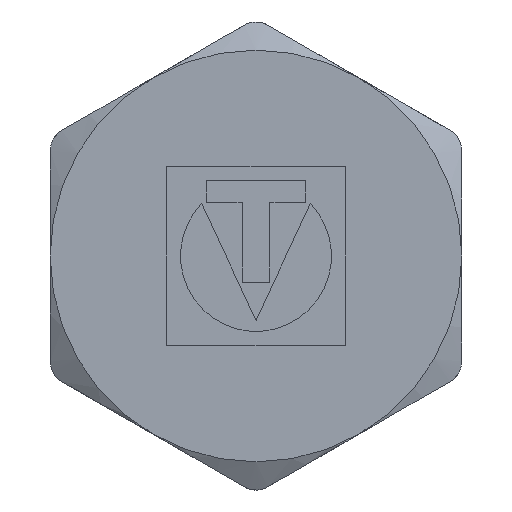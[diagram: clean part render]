
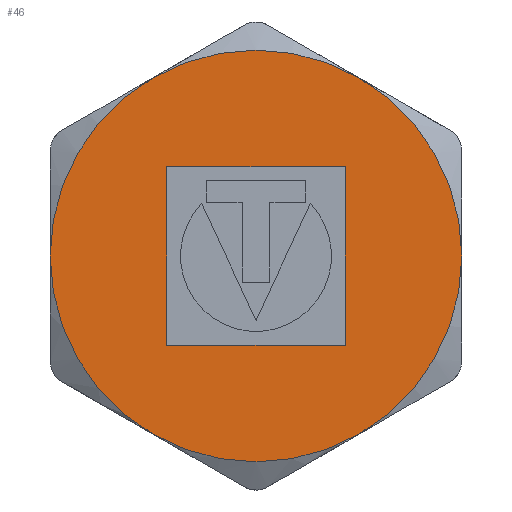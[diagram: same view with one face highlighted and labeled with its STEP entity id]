
A CAD part, front view. The second image highlights one B-rep face of the part: STEP entity #46.
In plain terms, the highlighted planar face has unit normal (0, -1, 0).
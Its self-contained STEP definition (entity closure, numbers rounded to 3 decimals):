
#46=ADVANCED_FACE('',(#100,#102),#104,.F.);
#100=FACE_BOUND('',#101,.T.);
#101=EDGE_LOOP('',(#403,#404));
#102=FACE_BOUND('',#103,.T.);
#103=EDGE_LOOP('',(#405,#406,#407,#408));
#104=PLANE('',#105);
#105=AXIS2_PLACEMENT_3D('',#106,#107,#108);
#106=CARTESIAN_POINT('',(0.,0.,0.));
#107=DIRECTION('',(0.,1.,0.));
#108=DIRECTION('',(-1.,0.,0.));
#403=ORIENTED_EDGE('',*,*,#599,.T.);
#404=ORIENTED_EDGE('',*,*,#600,.T.);
#405=ORIENTED_EDGE('',*,*,#601,.F.);
#406=ORIENTED_EDGE('',*,*,#602,.F.);
#407=ORIENTED_EDGE('',*,*,#603,.F.);
#408=ORIENTED_EDGE('',*,*,#604,.F.);
#599=EDGE_CURVE('',#708,#709,#710,.F.);
#600=EDGE_CURVE('',#709,#708,#711,.F.);
#601=EDGE_CURVE('',#712,#713,#714,.F.);
#602=EDGE_CURVE('',#715,#712,#716,.F.);
#603=EDGE_CURVE('',#717,#715,#718,.F.);
#604=EDGE_CURVE('',#713,#717,#719,.F.);
#708=VERTEX_POINT('',#893);
#709=VERTEX_POINT('',#894);
#710=CIRCLE('',#895,26.5);
#711=CIRCLE('',#899,26.5);
#712=VERTEX_POINT('',#903);
#713=VERTEX_POINT('',#904);
#714=LINE('',#905,#906);
#715=VERTEX_POINT('',#908);
#716=LINE('',#909,#910);
#717=VERTEX_POINT('',#912);
#718=LINE('',#913,#914);
#719=LINE('',#916,#917);
#893=CARTESIAN_POINT('',(26.5,0.,0.));
#894=CARTESIAN_POINT('',(-26.5,0.,0.));
#895=AXIS2_PLACEMENT_3D('',#896,#897,#898);
#896=CARTESIAN_POINT('',(0.,0.,0.));
#897=DIRECTION('',(0.,1.,0.));
#898=DIRECTION('',(-1.,0.,0.));
#899=AXIS2_PLACEMENT_3D('',#900,#901,#902);
#900=CARTESIAN_POINT('',(0.,0.,0.));
#901=DIRECTION('',(0.,1.,0.));
#902=DIRECTION('',(1.,0.,0.));
#903=CARTESIAN_POINT('',(-11.5,0.,11.5));
#904=CARTESIAN_POINT('',(-11.5,0.,-11.5));
#905=CARTESIAN_POINT('',(-11.5,0.,-11.5));
#906=VECTOR('',#907,1.);
#907=DIRECTION('',(0.,0.,1.));
#908=CARTESIAN_POINT('',(11.505,0.,11.5));
#909=CARTESIAN_POINT('',(-11.5,0.,11.5));
#910=VECTOR('',#911,1.);
#911=DIRECTION('',(1.,0.,0.));
#912=CARTESIAN_POINT('',(11.5,0.,-11.5));
#913=CARTESIAN_POINT('',(11.505,0.,11.5));
#914=VECTOR('',#915,1.);
#915=DIRECTION('',(0.,0.,-1.));
#916=CARTESIAN_POINT('',(11.5,0.,-11.5));
#917=VECTOR('',#918,1.);
#918=DIRECTION('',(-1.,0.,0.));
